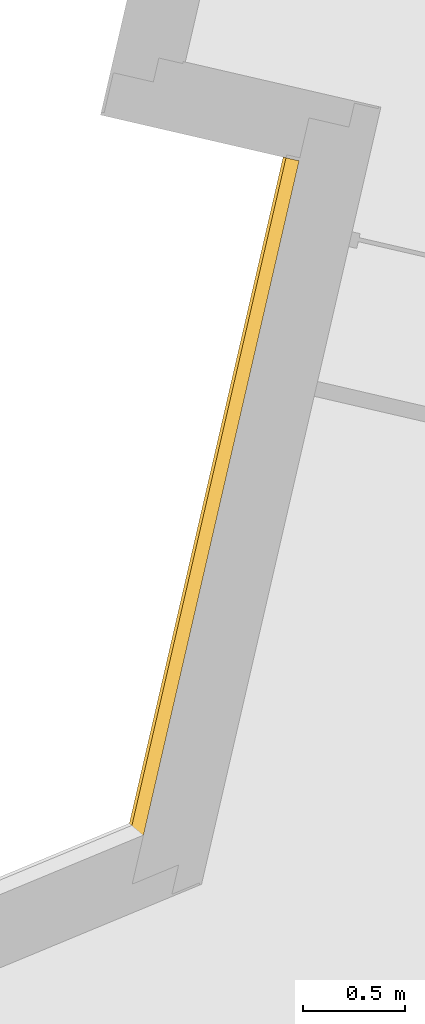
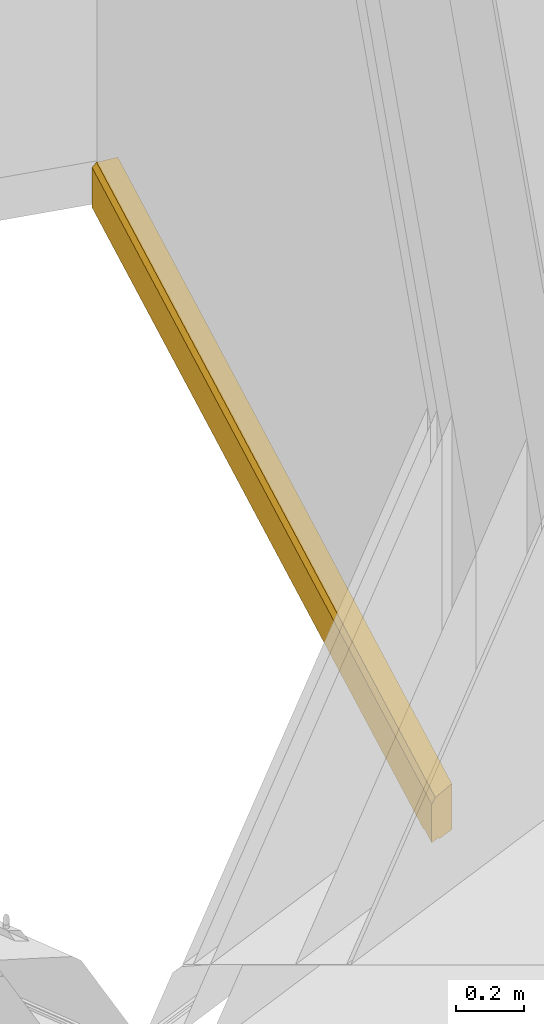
# One storey, part 40 of 62: 1 covering.
"""IFC2X3 building model written with IfcOpenShell, lengths in metres."""

from ifc_helpers import new_model, entity, si_unit, converted_unit, derived_unit, money_unit, direction, frame, origin_with_axes, place, context, subcontext, project, spatial, faceted_brep, material, type_object, element, save


model = new_model("IFC2X3")

# Units and contexts
model_context = context("Model", 3, precision=1e-05, world=origin_with_axes(), true_north=direction((0.0, 1.0)))
body_context = subcontext(model_context, "Body", "Model", "MODEL_VIEW")
ifc_project = project(units=[si_unit("LENGTHUNIT", "METRE"), si_unit("AREAUNIT", "SQUARE_METRE"), si_unit("VOLUMEUNIT", "CUBIC_METRE"), converted_unit("PLANEANGLEUNIT", "DEGREE", entity("IfcPlaneAngleMeasure", 0.0174532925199), si_unit("PLANEANGLEUNIT", "RADIAN"), dimensions=[0, 0, 0, 0, 0, 0, 0]), si_unit("SOLIDANGLEUNIT", "STERADIAN"), money_unit("EUR"), converted_unit("TIMEUNIT", "Year", entity("IfcTimeMeasure", 31556926.0), si_unit("TIMEUNIT", "SECOND"), dimensions=[0, 0, 1, 0, 0, 0, 0]), si_unit("MASSUNIT", "GRAM", prefix="KILO"), si_unit("THERMODYNAMICTEMPERATUREUNIT", "DEGREE_CELSIUS"), si_unit("LUMINOUSINTENSITYUNIT", "LUMEN"), si_unit("ENERGYUNIT", "JOULE", prefix="MEGA"), derived_unit("THERMALCONDUCTANCEUNIT", [(si_unit("POWERUNIT", "WATT"), 1), (si_unit("LENGTHUNIT", "METRE"), -1), (si_unit("THERMODYNAMICTEMPERATUREUNIT", "KELVIN"), -1)]), derived_unit("SPECIFICHEATCAPACITYUNIT", [(si_unit("ENERGYUNIT", "JOULE"), 1), (si_unit("MASSUNIT", "GRAM", prefix="KILO"), -1), (si_unit("THERMODYNAMICTEMPERATUREUNIT", "KELVIN"), -1)]), derived_unit("MASSDENSITYUNIT", [(si_unit("MASSUNIT", "GRAM", prefix="KILO"), 1), (si_unit("VOLUMEUNIT", "CUBIC_METRE"), -1)])], contexts=[model_context])

# Site, building, storey
site_placement = place(None, origin_with_axes())
site = spatial("IfcSite", under=ifc_project, at=site_placement, Name="Site", CompositionType="ELEMENT")
building_placement = place(site_placement, origin_with_axes())
building = spatial("IfcBuilding", under=site, at=building_placement, Name="Bâtiment", CompositionType="ELEMENT")
storey_placement = place(building_placement, frame((0.0, 0.0, 8.16), z_axis=(0.0, 0.0, 1.0), x_axis=(1.0, 0.0, 0.0)))
storey = spatial("IfcBuildingStorey", under=building, at=storey_placement, Name="R+3", CompositionType="ELEMENT", Elevation=8.16)

# Covering
ifc_material = material(Name="Finition sol - Carrelage")
covering_type = type_object("IfcCoveringType", Name="Bandeau de façade composite 80 x 165", PredefinedType="USERDEFINED")
covering_placement = place(storey_placement, frame((-19.0833865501, -9.45904696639, -0.165), z_axis=(0.0, 0.0, 1.0), x_axis=(-0.224876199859, -0.974387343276, 0.0)))
element("IfcCovering", 1, at=covering_placement, inside=storey, type_object=covering_type, material=ifc_material, Name="Bandeaux de façade préfa composite", ObjectType="MOLDING", PredefinedType="USERDEFINED", context=body_context, shape_type="Brep", body=[
    faceted_brep([(3.34648859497, 0.0177527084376, 0.00621912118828), (3.34381178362, 0.0125528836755, 0.0), (0.0, 0.0125528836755, 0.0), (0.0, 0.0177527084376, 0.00621912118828), (3.359161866, 0.0, 0.00621912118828), (3.35277301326, 0.0, 0.0), (0.0, 0.0, 0.0), (0.0, 0.0, 0.00621912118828), (3.41718270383, 0.0258592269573, 0.00621912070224), (3.42296977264, 0.0177527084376, 0.00621912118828), (3.35644880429, 0.0177527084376, 0.00621912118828), (0.0, 0.0258592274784, 0.00621912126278), (3.43564304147, 0.0, 0.144794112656), (0.0, 0.0, 0.144794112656), (3.36912207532, 0.0, 0.00621912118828), (3.43564304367, 0.0, 0.00621912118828), (0.0, 0.08, 0.00621912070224), (0.0, 0.0142855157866, 0.16), (0.0, 0.08, 0.165), (3.42544492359, 0.0142855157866, 0.16), (3.41347066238, 0.0310590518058, 0.0), (3.3785327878, 0.08, 0.0), (3.3785327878, 0.08, 0.164999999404), (0.0, 0.0310590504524, 0.0), (0.0, 0.08, 0.0)], [[[0, 1, 2, 3]], [[4, 5, 1, 0]], [[1, 5, 6, 2]], [[2, 6, 7, 3]], [[8, 9, 10, 0, 3, 11]], [[12, 13, 7, 6, 5, 4, 14, 15]], [[14, 4, 0, 10]], [[16, 11, 3, 7, 13, 17, 18]], [[19, 12, 15, 9, 8, 20, 21, 22]], [[9, 15, 14, 10]], [[20, 8, 11, 23]], [[12, 19, 17, 13]], [[24, 23, 11, 16]], [[19, 22, 18, 17]], [[22, 21, 24, 16, 18]], [[21, 20, 23, 24]]]),
])

save(model, "model.ifc")
